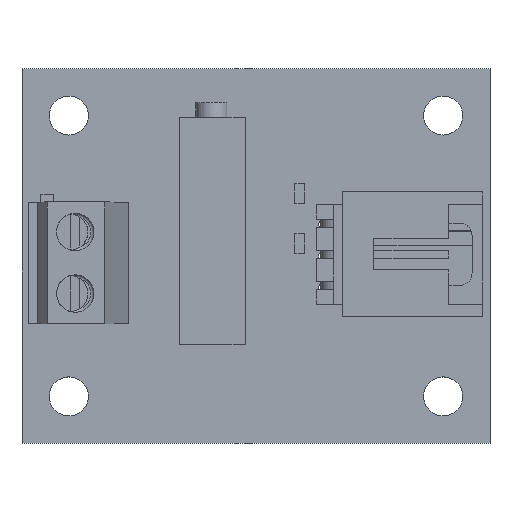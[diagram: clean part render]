
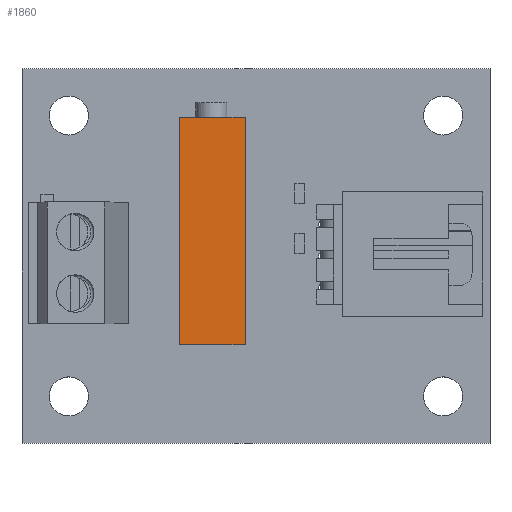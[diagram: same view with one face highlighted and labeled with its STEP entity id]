
A CAD part, top view. The second image highlights one B-rep face of the part: STEP entity #1860.
In plain terms, the highlighted planar face has unit normal (0, 0, 1).
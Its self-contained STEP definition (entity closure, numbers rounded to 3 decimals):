
#1546 = VERTEX_POINT('',#1547);
#1547 = CARTESIAN_POINT('',(-2.67,-9.25,6.502));
#1554 = PLANE('',#1555);
#1555 = AXIS2_PLACEMENT_3D('',#1556,#1557,#1558);
#1556 = CARTESIAN_POINT('',(-2.67,-9.25,0.));
#1557 = DIRECTION('',(-1.,0.,0.));
#1558 = DIRECTION('',(0.,1.,0.));
#1566 = PLANE('',#1567);
#1567 = AXIS2_PLACEMENT_3D('',#1568,#1569,#1570);
#1568 = CARTESIAN_POINT('',(2.67,-9.25,0.));
#1569 = DIRECTION('',(0.,-1.,0.));
#1570 = DIRECTION('',(-1.,0.,0.));
#1578 = EDGE_CURVE('',#1546,#1579,#1581,.T.);
#1579 = VERTEX_POINT('',#1580);
#1580 = CARTESIAN_POINT('',(-2.67,9.25,6.502));
#1581 = SURFACE_CURVE('',#1582,(#1586,#1593),.PCURVE_S1.);
#1582 = LINE('',#1583,#1584);
#1583 = CARTESIAN_POINT('',(-2.67,-9.25,6.502));
#1584 = VECTOR('',#1585,1.);
#1585 = DIRECTION('',(0.,1.,0.));
#1586 = PCURVE('',#1554,#1587);
#1587 = DEFINITIONAL_REPRESENTATION('',(#1588),#1592);
#1588 = LINE('',#1589,#1590);
#1589 = CARTESIAN_POINT('',(0.,-6.502));
#1590 = VECTOR('',#1591,1.);
#1591 = DIRECTION('',(1.,0.));
#1592 = ( GEOMETRIC_REPRESENTATION_CONTEXT(2) 
PARAMETRIC_REPRESENTATION_CONTEXT() REPRESENTATION_CONTEXT('2D SPACE',''
  ) );
#1593 = PCURVE('',#1594,#1599);
#1594 = PLANE('',#1595);
#1595 = AXIS2_PLACEMENT_3D('',#1596,#1597,#1598);
#1596 = CARTESIAN_POINT('',(-2.67,-9.25,6.502));
#1597 = DIRECTION('',(0.,0.,1.));
#1598 = DIRECTION('',(1.,0.,0.));
#1599 = DEFINITIONAL_REPRESENTATION('',(#1600),#1604);
#1600 = LINE('',#1601,#1602);
#1601 = CARTESIAN_POINT('',(0.,0.));
#1602 = VECTOR('',#1603,1.);
#1603 = DIRECTION('',(0.,1.));
#1604 = ( GEOMETRIC_REPRESENTATION_CONTEXT(2) 
PARAMETRIC_REPRESENTATION_CONTEXT() REPRESENTATION_CONTEXT('2D SPACE',''
  ) );
#1622 = PLANE('',#1623);
#1623 = AXIS2_PLACEMENT_3D('',#1624,#1625,#1626);
#1624 = CARTESIAN_POINT('',(-2.67,9.25,0.));
#1625 = DIRECTION('',(0.,1.,0.));
#1626 = DIRECTION('',(1.,0.,0.));
#1664 = EDGE_CURVE('',#1579,#1665,#1667,.T.);
#1665 = VERTEX_POINT('',#1666);
#1666 = CARTESIAN_POINT('',(2.67,9.25,6.502));
#1667 = SURFACE_CURVE('',#1668,(#1672,#1679),.PCURVE_S1.);
#1668 = LINE('',#1669,#1670);
#1669 = CARTESIAN_POINT('',(-2.67,9.25,6.502));
#1670 = VECTOR('',#1671,1.);
#1671 = DIRECTION('',(1.,0.,0.));
#1672 = PCURVE('',#1622,#1673);
#1673 = DEFINITIONAL_REPRESENTATION('',(#1674),#1678);
#1674 = LINE('',#1675,#1676);
#1675 = CARTESIAN_POINT('',(0.,-6.502));
#1676 = VECTOR('',#1677,1.);
#1677 = DIRECTION('',(1.,0.));
#1678 = ( GEOMETRIC_REPRESENTATION_CONTEXT(2) 
PARAMETRIC_REPRESENTATION_CONTEXT() REPRESENTATION_CONTEXT('2D SPACE',''
  ) );
#1679 = PCURVE('',#1594,#1680);
#1680 = DEFINITIONAL_REPRESENTATION('',(#1681),#1685);
#1681 = LINE('',#1682,#1683);
#1682 = CARTESIAN_POINT('',(0.,18.5));
#1683 = VECTOR('',#1684,1.);
#1684 = DIRECTION('',(1.,0.));
#1685 = ( GEOMETRIC_REPRESENTATION_CONTEXT(2) 
PARAMETRIC_REPRESENTATION_CONTEXT() REPRESENTATION_CONTEXT('2D SPACE',''
  ) );
#1703 = PLANE('',#1704);
#1704 = AXIS2_PLACEMENT_3D('',#1705,#1706,#1707);
#1705 = CARTESIAN_POINT('',(2.67,9.25,0.));
#1706 = DIRECTION('',(1.,0.,0.));
#1707 = DIRECTION('',(0.,-1.,0.));
#1740 = EDGE_CURVE('',#1665,#1741,#1743,.T.);
#1741 = VERTEX_POINT('',#1742);
#1742 = CARTESIAN_POINT('',(2.67,-9.25,6.502));
#1743 = SURFACE_CURVE('',#1744,(#1748,#1755),.PCURVE_S1.);
#1744 = LINE('',#1745,#1746);
#1745 = CARTESIAN_POINT('',(2.67,9.25,6.502));
#1746 = VECTOR('',#1747,1.);
#1747 = DIRECTION('',(0.,-1.,0.));
#1748 = PCURVE('',#1703,#1749);
#1749 = DEFINITIONAL_REPRESENTATION('',(#1750),#1754);
#1750 = LINE('',#1751,#1752);
#1751 = CARTESIAN_POINT('',(0.,-6.502));
#1752 = VECTOR('',#1753,1.);
#1753 = DIRECTION('',(1.,0.));
#1754 = ( GEOMETRIC_REPRESENTATION_CONTEXT(2) 
PARAMETRIC_REPRESENTATION_CONTEXT() REPRESENTATION_CONTEXT('2D SPACE',''
  ) );
#1755 = PCURVE('',#1594,#1756);
#1756 = DEFINITIONAL_REPRESENTATION('',(#1757),#1761);
#1757 = LINE('',#1758,#1759);
#1758 = CARTESIAN_POINT('',(5.34,18.5));
#1759 = VECTOR('',#1760,1.);
#1760 = DIRECTION('',(0.,-1.));
#1761 = ( GEOMETRIC_REPRESENTATION_CONTEXT(2) 
PARAMETRIC_REPRESENTATION_CONTEXT() REPRESENTATION_CONTEXT('2D SPACE',''
  ) );
#1811 = EDGE_CURVE('',#1741,#1546,#1812,.T.);
#1812 = SURFACE_CURVE('',#1813,(#1817,#1824),.PCURVE_S1.);
#1813 = LINE('',#1814,#1815);
#1814 = CARTESIAN_POINT('',(2.67,-9.25,6.502));
#1815 = VECTOR('',#1816,1.);
#1816 = DIRECTION('',(-1.,0.,0.));
#1817 = PCURVE('',#1566,#1818);
#1818 = DEFINITIONAL_REPRESENTATION('',(#1819),#1823);
#1819 = LINE('',#1820,#1821);
#1820 = CARTESIAN_POINT('',(0.,-6.502));
#1821 = VECTOR('',#1822,1.);
#1822 = DIRECTION('',(1.,0.));
#1823 = ( GEOMETRIC_REPRESENTATION_CONTEXT(2) 
PARAMETRIC_REPRESENTATION_CONTEXT() REPRESENTATION_CONTEXT('2D SPACE',''
  ) );
#1824 = PCURVE('',#1594,#1825);
#1825 = DEFINITIONAL_REPRESENTATION('',(#1826),#1830);
#1826 = LINE('',#1827,#1828);
#1827 = CARTESIAN_POINT('',(5.34,0.));
#1828 = VECTOR('',#1829,1.);
#1829 = DIRECTION('',(-1.,0.));
#1830 = ( GEOMETRIC_REPRESENTATION_CONTEXT(2) 
PARAMETRIC_REPRESENTATION_CONTEXT() REPRESENTATION_CONTEXT('2D SPACE',''
  ) );
#1860 = ADVANCED_FACE('',(#1861),#1594,.T.);
#1861 = FACE_BOUND('',#1862,.F.);
#1862 = EDGE_LOOP('',(#1863,#1864,#1865,#1866));
#1863 = ORIENTED_EDGE('',*,*,#1578,.T.);
#1864 = ORIENTED_EDGE('',*,*,#1664,.T.);
#1865 = ORIENTED_EDGE('',*,*,#1740,.T.);
#1866 = ORIENTED_EDGE('',*,*,#1811,.T.);
